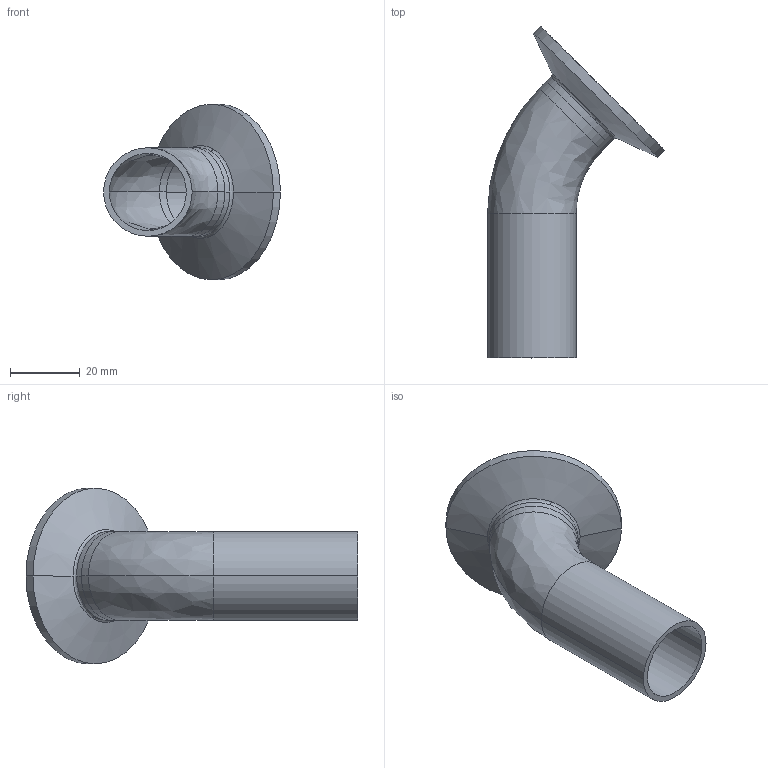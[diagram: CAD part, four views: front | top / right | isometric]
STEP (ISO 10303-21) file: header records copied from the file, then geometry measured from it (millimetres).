
FILE_DESCRIPTION (( 'STEP AP214' ), '1' );
FILE_NAME ('TE2KC6L1.0-...STEP', '2016-05-22T06:28:54', ( 'eran' ), ( '' ), 'SwSTEP 2.0', 'SolidWorks 2016', '' );
FILE_SCHEMA (( 'AUTOMOTIVE_DESIGN' ));
Length unit declared in the file: millimetre
Products named in the file (1): TE2KC6L1.0-..
Bounding box: 50.74 x 95.24 x 50.39 mm (x, y, z)
Volume: 17432.9 mm3; surface area: 16037.5 mm2
Topology: 2 solids, 2 shells, 39 faces, 92 edges, 58 vertices
Faces by surface type: cylinder 14, bspline 14, cone 6, plane 5
Entity records: 1745 total; most frequent: CARTESIAN_POINT 802, DIRECTION 204, ORIENTED_EDGE 184, EDGE_CURVE 92, AXIS2_PLACEMENT_3D 92, CIRCLE 66, VERTEX_POINT 58, EDGE_LOOP 44
